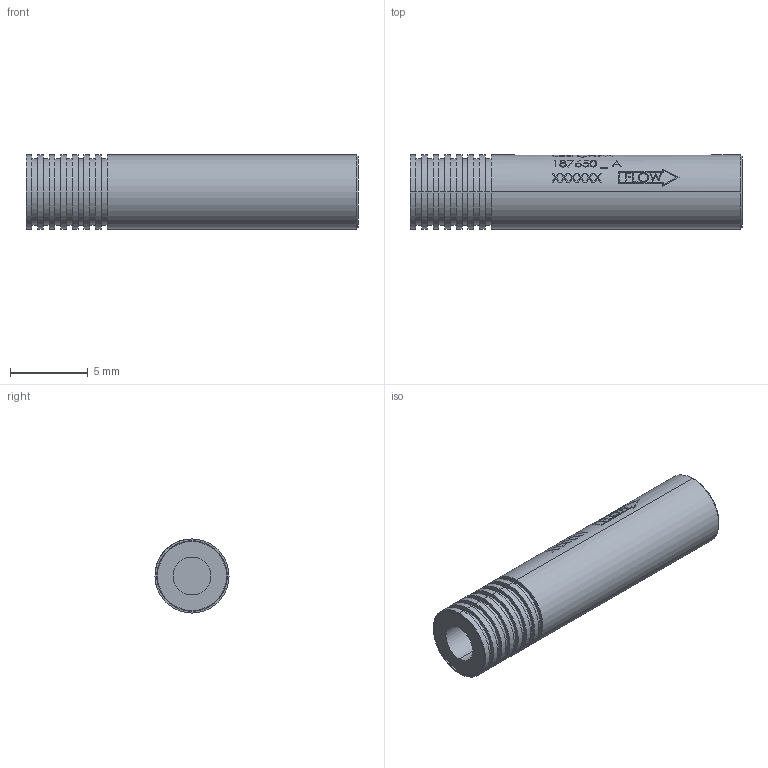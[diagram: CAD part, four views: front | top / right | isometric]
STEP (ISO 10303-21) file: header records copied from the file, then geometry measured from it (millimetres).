
FILE_DESCRIPTION (( 'STEP AP214' ), '1' );
FILE_NAME ('3DCHFA187650-A.STEP', '2021-03-30T19:28:49', ( '' ), ( '' ), 'SwSTEP 2.0', 'SolidWorks 2019', '' );
FILE_SCHEMA (( 'AUTOMOTIVE_DESIGN' ));
Length unit declared in the file: inch
Products named in the file (1): 3DCHFA187650-A
Bounding box: 21.34 x 4.76 x 4.76 mm (x, y, z)
Volume: 338.6 mm3; surface area: 459.3 mm2
Topology: 1 solids, 1 shells, 392 faces, 1010 edges, 672 vertices
Faces by surface type: plane 159, bspline 159, cylinder 70, cone 4
Entity records: 19370 total; most frequent: CARTESIAN_POINT 6852, ORIENTED_EDGE 2020, DIRECTION 1112, EDGE_CURVE 1010, VERTEX_POINT 672, B_SPLINE_CURVE_WITH_KNOTS 530, EDGE_LOOP 444, AXIS2_PLACEMENT_3D 398
